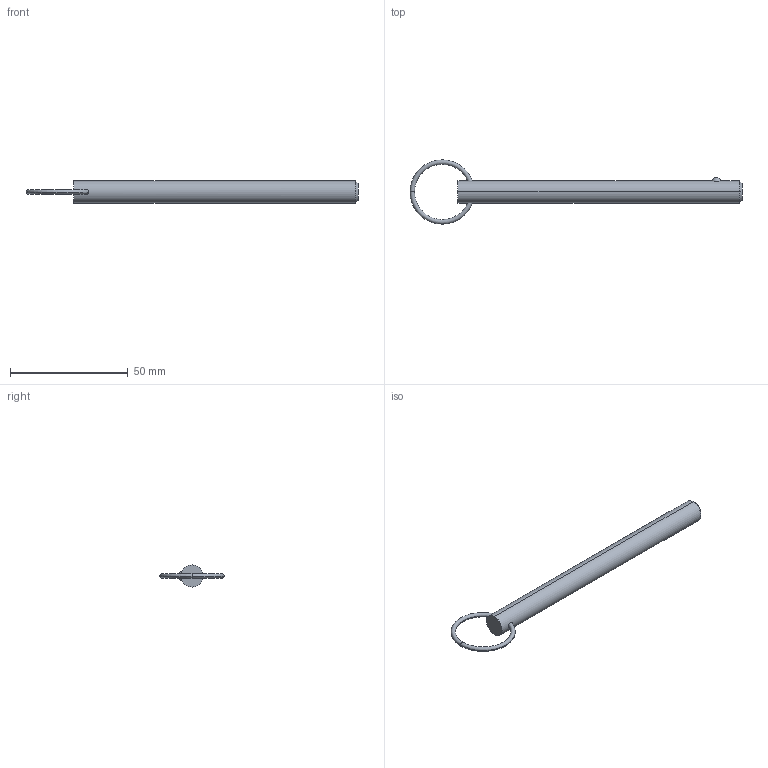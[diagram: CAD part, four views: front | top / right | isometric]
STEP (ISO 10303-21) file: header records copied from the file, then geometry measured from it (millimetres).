
FILE_DESCRIPTION (( 'STEP AP203' ), '1' );
FILE_NAME ('33012.W3740.step', '2024-11-01T14:10:13', ( '' ), ( '' ), 'SwSTEP 2.0', 'SolidWorks 2019', '' );
FILE_SCHEMA (( 'CONFIG_CONTROL_DESIGN' ));
Length unit declared in the file: millimetre
Products named in the file (3): Part1_33012.W3740; 33012.W3740; Part2_33012.W3740
Assembly tree (2 placements, depth 2):
  33012.W3740
    Part1_33012.W3740
    Part2_33012.W3740
Bounding box: 140.99 x 27.28 x 9.4 mm (x, y, z)
Volume: 8544.2 mm3; surface area: 4219.4 mm2
Topology: 2 solids, 2 shells, 16 faces, 31 edges, 18 vertices
Faces by surface type: torus 8, sphere 2, cone 2, cylinder 2, plane 2
Entity records: 849 total; most frequent: CARTESIAN_POINT 206, DIRECTION 88, ORIENTED_EDGE 62, AXIS2_PLACEMENT_3D 42, EDGE_CURVE 31, PERSON_AND_ORGANIZATION 26, CIRCLE 21, EDGE_LOOP 19
